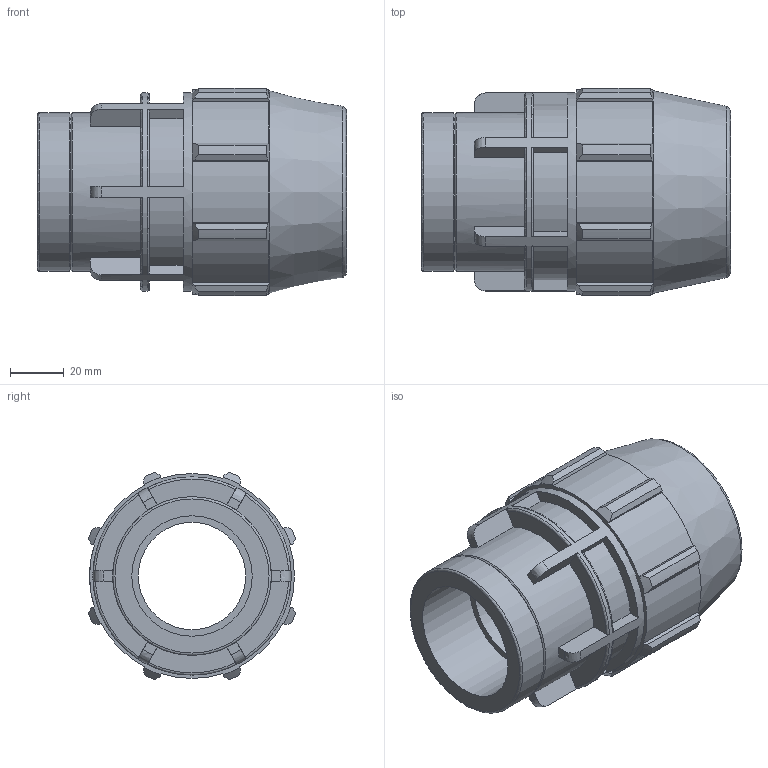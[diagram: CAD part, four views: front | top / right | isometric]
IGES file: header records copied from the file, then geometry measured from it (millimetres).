
Global section: file name: 0703M0T13015.ipt; native system: Autodesk Inventor 2019; preprocessor: unknown; author: KIM; date: 20210826.124521; units: inch
Bounding box: 115.06 x 77.2 x 77.2 mm (x, y, z)
Volume: 255875.9 mm3; surface area: 50486.7 mm2
Topology: 1 solids, 1 shells, 148 faces, 413 edges, 277 vertices
Faces by surface type: plane 86, revolution 25, cylinder 25, cone 12
Full cylindrical faces by diameter (mm): 59.07 x2, 73.838 x1
